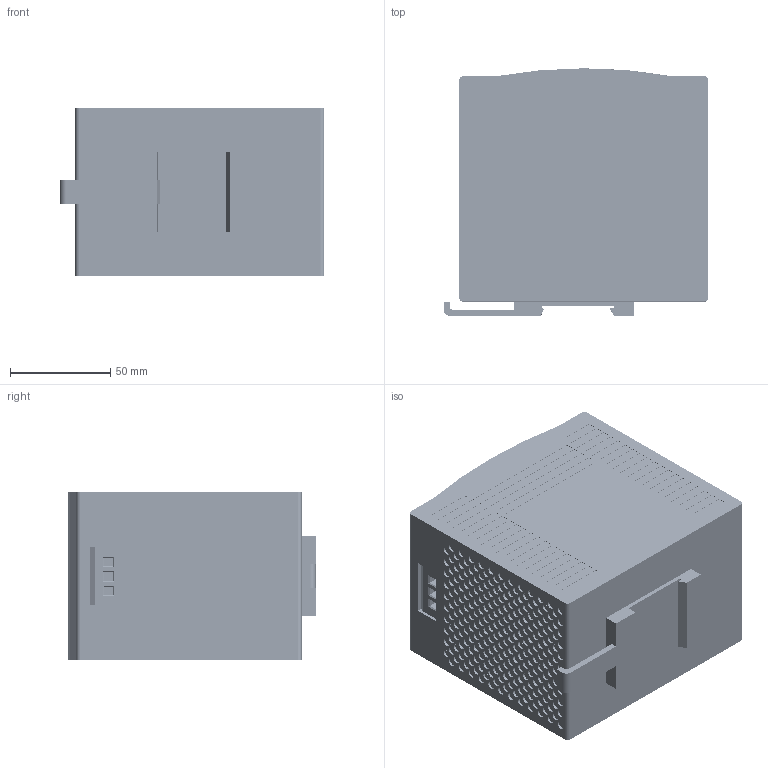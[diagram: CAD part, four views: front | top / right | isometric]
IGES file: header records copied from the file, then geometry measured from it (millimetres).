
Start section: SolidWorks IGES file using analytic representation for surfaces
Global section: file name: G:\Berran Hooper\CAD Files\Dan Coggins\DNR240PS.IGS; native system: SolidWorks 2016; preprocessor: SolidWorks 2016; author: bhooper; date: 160601.170945; units: millimetre
Bounding box: 132.25 x 123.6 x 83.5 mm (x, y, z)
Surface area: 84261.8 mm2 (no closed solid volume)
Topology: 0 solids, 0 shells, 2190 faces, 40881 edges, 40870 vertices
Faces by surface type: bspline 1134, revolution 1056
